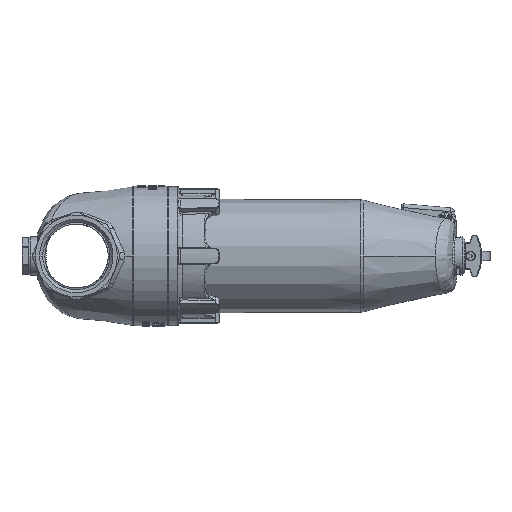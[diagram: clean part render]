
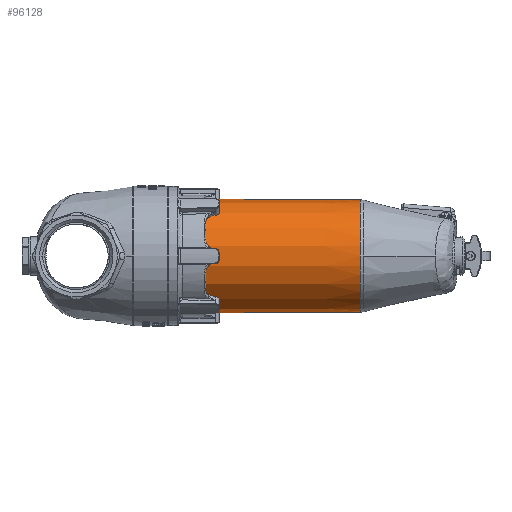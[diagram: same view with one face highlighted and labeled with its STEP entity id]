
A CAD part, left-side view. The second image highlights one B-rep face of the part: STEP entity #96128.
In plain terms, the highlighted conical face has half-angle 0.232 degrees and reference radius 38.346 mm.
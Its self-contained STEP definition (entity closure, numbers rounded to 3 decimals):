
#339 = DIRECTION ( 'NONE',  ( 0., 1., 0. ) ) ;
#1041 = DIRECTION ( 'NONE',  ( 0., 1., 0.004 ) ) ;
#3886 = ORIENTED_EDGE ( 'NONE', *, *, #35587, .T. ) ;
#10235 = EDGE_CURVE ( 'NONE', #70412, #52877, #11818, .T. ) ;
#11818 = LINE ( 'NONE', #74179, #94220 ) ;
#12777 = CARTESIAN_POINT ( 'NONE',  ( 0., -44.996, 0. ) ) ;
#13065 = DIRECTION ( 'NONE',  ( 0., 0., 1. ) ) ;
#14642 = CARTESIAN_POINT ( 'NONE',  ( 0., -44.996, 38.346 ) ) ;
#14663 = CARTESIAN_POINT ( 'NONE',  ( 0., -191.109, 37.754 ) ) ;
#15586 = CARTESIAN_POINT ( 'NONE',  ( 0., -191.109, -37.754 ) ) ;
#17368 = EDGE_CURVE ( 'NONE', #70412, #26908, #103700, .T. ) ;
#23562 = CONICAL_SURFACE ( 'NONE', #25251, 38.346, 0.004 ) ;
#25251 = AXIS2_PLACEMENT_3D ( 'NONE', #12777, #44967, #37560 ) ;
#26310 = VERTEX_POINT ( 'NONE', #14642 ) ;
#26908 = VERTEX_POINT ( 'NONE', #14663 ) ;
#28601 = FACE_OUTER_BOUND ( 'NONE', #92221, .T. ) ;
#31128 = ORIENTED_EDGE ( 'NONE', *, *, #81985, .T. ) ;
#35587 = EDGE_CURVE ( 'NONE', #26908, #26310, #65365, .T. ) ;
#37560 = DIRECTION ( 'NONE',  ( 0., 0., 1. ) ) ;
#41611 = CARTESIAN_POINT ( 'NONE',  ( 0., -44.996, 38.346 ) ) ;
#44022 = DIRECTION ( 'NONE',  ( 0., 1., -0.004 ) ) ;
#44967 = DIRECTION ( 'NONE',  ( 0., 1., 0. ) ) ;
#48202 = ORIENTED_EDGE ( 'NONE', *, *, #17368, .T. ) ;
#52691 = CARTESIAN_POINT ( 'NONE',  ( 0., -44.996, 0. ) ) ;
#52877 = VERTEX_POINT ( 'NONE', #56129 ) ;
#56129 = CARTESIAN_POINT ( 'NONE',  ( 0., -44.996, -38.346 ) ) ;
#60353 = CIRCLE ( 'NONE', #90638, 38.346 ) ;
#65365 = LINE ( 'NONE', #41611, #97360 ) ;
#70412 = VERTEX_POINT ( 'NONE', #15586 ) ;
#73673 = CARTESIAN_POINT ( 'NONE',  ( 0., -191.109, 0. ) ) ;
#74179 = CARTESIAN_POINT ( 'NONE',  ( 0., -44.996, -38.346 ) ) ;
#80002 = DIRECTION ( 'NONE',  ( 0., 0., 1. ) ) ;
#81985 = EDGE_CURVE ( 'NONE', #26310, #52877, #60353, .T. ) ;
#83643 = ORIENTED_EDGE ( 'NONE', *, *, #10235, .F. ) ;
#85384 = DIRECTION ( 'NONE',  ( 0., -1., 0. ) ) ;
#90638 = AXIS2_PLACEMENT_3D ( 'NONE', #52691, #85384, #13065 ) ;
#91897 = AXIS2_PLACEMENT_3D ( 'NONE', #73673, #339, #80002 ) ;
#92221 = EDGE_LOOP ( 'NONE', ( #83643, #48202, #3886, #31128 ) ) ;
#94220 = VECTOR ( 'NONE', #44022, 1000. ) ;
#96128 = ADVANCED_FACE ( 'NONE', ( #28601 ), #23562, .T. ) ;
#97360 = VECTOR ( 'NONE', #1041, 1000. ) ;
#103700 = CIRCLE ( 'NONE', #91897, 37.754 ) ;
